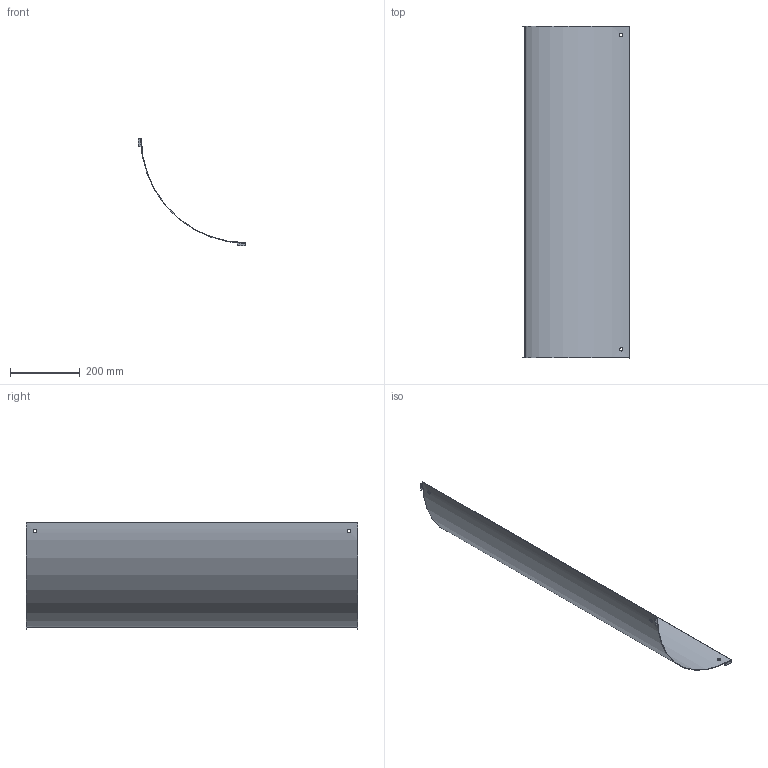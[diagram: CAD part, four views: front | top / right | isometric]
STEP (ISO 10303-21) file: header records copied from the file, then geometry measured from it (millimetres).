
FILE_DESCRIPTION(/* description */ ('','CAx-IF Rec.Pracs.---Representation and Presentation of Product Manufacturing Information (PMI)---4.0---2014-10-13'),/* implementation_level */ '2;1');
FILE_NAME(/* name */ 'Eurostrut_EIRC900-90-300_Cover Inside Riser 90 for Cable Ladder ECL.step',/* time_stamp */ '2026-09-10T11:56:11+02:00',/* author */ (''),/* organization */ (''),/* preprocessor_version */ 'ST-DEVELOPER v20.1',/* originating_system */ 'Autodesk Revit 2027 27.2.0.39',/* authorisation */ '');
FILE_SCHEMA (('AP242_MANAGED_MODEL_BASED_3D_ENGINEERING_MIM_LF { 1 0 10303 442 2 1 4 }'));
Length unit declared in the file: millimetre
Products named in the file (3): TopLevelAssembly; Sweep; Joined Solid Geometry
Assembly tree (2 placements, depth 2):
  TopLevelAssembly
    Sweep
    Joined Solid Geometry
Bounding box: 309 x 953 x 309 mm (x, y, z)
Volume: 675975.1 mm3; surface area: 906155.6 mm2
Topology: 5 solids, 5 shells, 38 faces, 84 edges, 56 vertices
Faces by surface type: plane 20, cylinder 18
Entity records: 1358 total; most frequent: CARTESIAN_POINT 461, DIRECTION 174, ORIENTED_EDGE 168, EDGE_CURVE 84, AXIS2_PLACEMENT_3D 63, VERTEX_POINT 56, LINE 48, VECTOR 48
